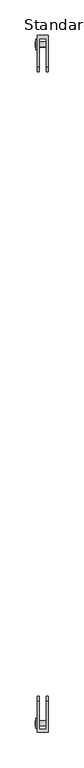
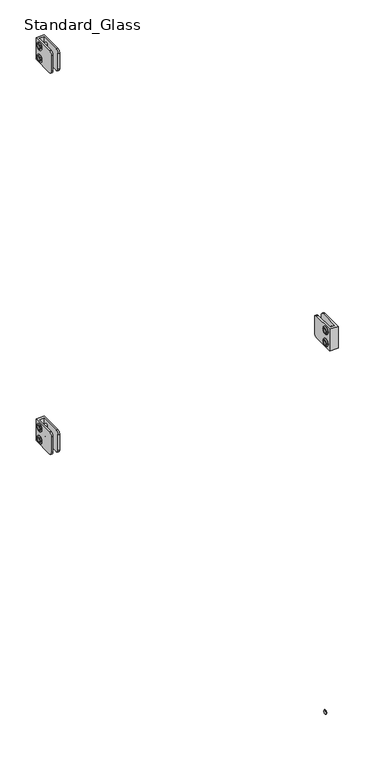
"""IFC4 building model written with IfcOpenShell, lengths in millimetres: railing geometry, Baluster-Excess-Fill-Straight-Panel-VIVA : Standard_Glass."""

from ifc_helpers import new_model, si_unit, point, frame, origin, place, context, project, spatial, polyline, circle_curve, ellipse_curve, trimmed, outline, extrude, source, transform, mapped, element, save
from ifc_brep_helpers import plane_surface, cylinder_surface, revolved_surface, advanced_brep


def standard_glass_70e89d08(model_context):
    return source(origin(), model_context, "Body", "SolidModel", [
        extrude(outline(polyline([(17.3185433, 917.178125), (15.2715791, 913.6326791), (11.1776508, 913.6326791), (9.1306867, 917.178125), (11.1776508, 920.7235709), (15.2715791, 920.7235709), (17.3185433, 917.178125)])), frame((21.7024185, 0.0, 0.0), z_axis=(1.0, 0.0, 0.0), x_axis=(0.0, 1.0, 0.0)), (0.0, 0.0, 1.0), 1.4969696),
        advanced_brep(
        [(36.7665, 16.7700609, 917.178125), (36.7665, 9.6791691, 917.178125), (24.0665, 9.6791691, 917.178125), (24.0665, 16.7700609, 917.178125), (24.0665, 5.8168259, 917.178125), (24.0665, 20.6324041, 917.178125), (23.199388, 14.8806904, 917.178125), (23.199388, 11.5685396, 917.178125), (36.7665, 11.5685396, 917.178125), (36.7665, 14.8806904, 917.178125), (23.2316551, 20.6324041, 917.178125), (23.2316551, 5.8168259, 917.178125), (21.9503831, 7.0980979, 917.178125), (21.9503831, 19.351132, 917.178125), (21.9503831, 8.9260194, 917.178125), (21.9503831, 17.5232105, 917.178125), (23.199388, 8.9260194, 917.178125), (23.199388, 17.5232105, 917.178125)],
        [
            (0, 1, circle_curve(frame((36.7665, 13.224615, 917.178125), z_axis=(-1.0, 0.0, 0.0), x_axis=(0.0, -1.0, 0.0)), 3.5454459)),
            (1, 2),
            (2, 3, circle_curve(frame((24.0665, 13.224615, 917.178125), z_axis=(1.0, 0.0, 0.0), x_axis=(0.0, -1.0, 0.0)), 3.5454459)),
            (3, 0),
            (1, 0, circle_curve(frame((36.7665, 13.224615, 917.178125), z_axis=(-1.0, 0.0, 0.0), x_axis=(0.0, -1.0, 0.0)), 3.5454459)),
            (3, 2, circle_curve(frame((24.0665, 13.224615, 917.178125), z_axis=(1.0, 0.0, 0.0), x_axis=(0.0, -1.0, 0.0)), 3.5454459)),
            (2, 4),
            (4, 5, circle_curve(frame((24.0665, 13.224615, 917.178125), z_axis=(1.0, 0.0, 0.0), x_axis=(0.0, -1.0, 0.0)), 7.4077891)),
            (5, 3),
            (5, 4, circle_curve(frame((24.0665, 13.224615, 917.178125), z_axis=(1.0, 0.0, 0.0), x_axis=(0.0, -1.0, 0.0)), 7.4077891)),
            (6, 7, circle_curve(frame((23.199388, 13.224615, 917.178125), z_axis=(-1.0, 0.0, 0.0), x_axis=(0.0, -1.0, 0.0)), 1.6560754)),
            (7, 8),
            (8, 9, circle_curve(frame((36.7665, 13.224615, 917.178125), z_axis=(1.0, 0.0, 0.0), x_axis=(0.0, -1.0, 0.0)), 1.6560754)),
            (9, 6),
            (7, 6, circle_curve(frame((23.199388, 13.224615, 917.178125), z_axis=(-1.0, 0.0, 0.0), x_axis=(0.0, -1.0, 0.0)), 1.6560754)),
            (9, 8, circle_curve(frame((36.7665, 13.224615, 917.178125), z_axis=(1.0, 0.0, 0.0), x_axis=(0.0, -1.0, 0.0)), 1.6560754)),
            (10, 11, circle_curve(frame((23.2316551, 13.224615, 917.178125), z_axis=(-1.0, 0.0, 0.0), x_axis=(0.0, -1.0, 0.0)), 7.4077891)),
            (11, 12, circle_curve(frame((23.2316551, 7.0980979, 917.178125), z_axis=(0.0, 0.0, -1.0), x_axis=(0.0, -1.0, 0.0)), 1.281272)),
            (12, 13, circle_curve(frame((21.9503831, 13.224615, 917.178125), z_axis=(1.0, 0.0, 0.0), x_axis=(0.0, -1.0, 0.0)), 6.1265171)),
            (13, 10, circle_curve(frame((23.2316551, 19.351132, 917.178125), z_axis=(0.0, 0.0, -1.0), x_axis=(0.0, 1.0, 0.0)), 1.281272)),
            (11, 10, circle_curve(frame((23.2316551, 13.224615, 917.178125), z_axis=(-1.0, 0.0, 0.0), x_axis=(0.0, -1.0, 0.0)), 7.4077891)),
            (13, 12, circle_curve(frame((21.9503831, 13.224615, 917.178125), z_axis=(1.0, 0.0, 0.0), x_axis=(0.0, -1.0, 0.0)), 6.1265171)),
            (12, 14),
            (14, 15, circle_curve(frame((21.9503831, 13.224615, 917.178125), z_axis=(1.0, 0.0, 0.0), x_axis=(0.0, -1.0, 0.0)), 4.2985955)),
            (15, 13),
            (15, 14, circle_curve(frame((21.9503831, 13.224615, 917.178125), z_axis=(1.0, 0.0, 0.0), x_axis=(0.0, -1.0, 0.0)), 4.2985955)),
            (4, 11),
            (10, 5),
            (8, 1),
            (0, 9),
            (14, 16),
            (16, 17, circle_curve(frame((23.199388, 13.224615, 917.178125), z_axis=(1.0, 0.0, 0.0), x_axis=(0.0, -1.0, 0.0)), 4.2985955)),
            (17, 15),
            (17, 16, circle_curve(frame((23.199388, 13.224615, 917.178125), z_axis=(1.0, 0.0, 0.0), x_axis=(0.0, -1.0, 0.0)), 4.2985955)),
            (16, 7),
            (6, 17),
        ],
        [
            cylinder_surface(frame((27.5632331, 13.224615, 917.178125), z_axis=(1.0, 0.0, 0.0), x_axis=(0.0, -1.0, 0.0)), 3.5454459),
            plane_surface(frame((24.0665, 13.224615, 917.178125), z_axis=(1.0, 0.0, 0.0), x_axis=(0.0, -1.0, 0.0))),
            revolved_surface(polyline([(36.7665, 11.5685396, 917.178125), (23.199388, 11.5685396, 917.178125)]), (27.5632331, 13.224615, 917.178125), (1.0, 0.0, 0.0)),
            revolved_surface(trimmed(ellipse_curve(frame((23.2316551, 7.0980979, 917.178125), z_axis=(0.0, 0.0, 1.0), x_axis=(0.0, -1.0, 0.0)), 1.281272, 1.281272), [point((21.9503831, 7.0980979, 917.178125))], [point((23.2316551, 5.8168259, 917.178125))], True, "CARTESIAN"), (27.5632331, 13.224615, 917.178125), (1.0, 0.0, 0.0)),
            plane_surface(frame((21.9503831, 13.224615, 917.178125), z_axis=(-1.0, 0.0, 0.0), x_axis=(0.0, -1.0, 0.0))),
            cylinder_surface(frame((27.5632331, 13.224615, 917.178125), z_axis=(1.0, 0.0, 0.0), x_axis=(0.0, -1.0, 0.0)), 7.4077891),
            plane_surface(frame((36.7665, 13.224615, 917.178125), z_axis=(1.0, 0.0, 0.0), x_axis=(0.0, -1.0, 0.0))),
            revolved_surface(polyline([(23.199388, 8.926019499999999, 917.178125), (21.9503831, 8.926019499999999, 917.178125)]), (27.5632331, 13.224615, 917.178125), (1.0, 0.0, 0.0)),
            plane_surface(frame((23.199388, 13.224615, 917.178125), z_axis=(-1.0, 0.0, 0.0), x_axis=(0.0, -1.0, 0.0))),
        ],
        [
            (0, [[1, 2, 3, 4]]),
            (0, [[5, -4, 6, -2]]),
            (1, [[-3, 7, 8, 9]]),
            (1, [[-6, -9, 10, -7]]),
            (2, [[11, 12, 13, 14]]),
            (2, [[15, -14, 16, -12]]),
            (3, [[17, 18, 19, 20]]),
            (3, [[21, -20, 22, -18]]),
            (4, [[-19, 23, 24, 25]]),
            (4, [[-22, -25, 26, -23]]),
            (5, [[-8, 27, -17, 28]]),
            (5, [[-10, -28, -21, -27]]),
            (6, [[-13, 29, -1, 30]]),
            (6, [[-16, -30, -5, -29]]),
            (7, [[-24, 31, 32, 33]]),
            (7, [[-26, -33, 34, -31]]),
            (8, [[-32, 35, -11, 36]]),
            (8, [[-34, -36, -15, -35]]),
        ],
    ),
        advanced_brep(
        [(36.7665, 16.7700609, 892.571875), (36.7665, 9.6791691, 892.571875), (24.0665, 9.6791691, 892.571875), (24.0665, 16.7700609, 892.571875), (24.0665, 5.8168259, 892.571875), (24.0665, 20.6324041, 892.571875), (23.199388, 14.8806904, 892.571875), (23.199388, 11.5685396, 892.571875), (36.7665, 11.5685396, 892.571875), (36.7665, 14.8806904, 892.571875), (23.2316551, 20.6324041, 892.571875), (23.2316551, 5.8168259, 892.571875), (21.9503831, 7.0980979, 892.571875), (21.9503831, 19.351132, 892.571875), (21.9503831, 8.9260194, 892.571875), (21.9503831, 17.5232105, 892.571875), (23.199388, 8.9260194, 892.571875), (23.199388, 17.5232105, 892.571875)],
        [
            (0, 1, circle_curve(frame((36.7665, 13.224615, 892.571875), z_axis=(-1.0, 0.0, 0.0), x_axis=(0.0, -1.0, 0.0)), 3.5454459)),
            (1, 2),
            (2, 3, circle_curve(frame((24.0665, 13.224615, 892.571875), z_axis=(1.0, 0.0, 0.0), x_axis=(0.0, -1.0, 0.0)), 3.5454459)),
            (3, 0),
            (1, 0, circle_curve(frame((36.7665, 13.224615, 892.571875), z_axis=(-1.0, 0.0, 0.0), x_axis=(0.0, -1.0, 0.0)), 3.5454459)),
            (3, 2, circle_curve(frame((24.0665, 13.224615, 892.571875), z_axis=(1.0, 0.0, 0.0), x_axis=(0.0, -1.0, 0.0)), 3.5454459)),
            (2, 4),
            (4, 5, circle_curve(frame((24.0665, 13.224615, 892.571875), z_axis=(1.0, 0.0, 0.0), x_axis=(0.0, -1.0, 0.0)), 7.4077891)),
            (5, 3),
            (5, 4, circle_curve(frame((24.0665, 13.224615, 892.571875), z_axis=(1.0, 0.0, 0.0), x_axis=(0.0, -1.0, 0.0)), 7.4077891)),
            (6, 7, circle_curve(frame((23.199388, 13.224615, 892.571875), z_axis=(-1.0, 0.0, 0.0), x_axis=(0.0, -1.0, 0.0)), 1.6560754)),
            (7, 8),
            (8, 9, circle_curve(frame((36.7665, 13.224615, 892.571875), z_axis=(1.0, 0.0, 0.0), x_axis=(0.0, -1.0, 0.0)), 1.6560754)),
            (9, 6),
            (7, 6, circle_curve(frame((23.199388, 13.224615, 892.571875), z_axis=(-1.0, 0.0, 0.0), x_axis=(0.0, -1.0, 0.0)), 1.6560754)),
            (9, 8, circle_curve(frame((36.7665, 13.224615, 892.571875), z_axis=(1.0, 0.0, 0.0), x_axis=(0.0, -1.0, 0.0)), 1.6560754)),
            (10, 11, circle_curve(frame((23.2316551, 13.224615, 892.571875), z_axis=(-1.0, 0.0, 0.0), x_axis=(0.0, -1.0, 0.0)), 7.4077891)),
            (11, 12, circle_curve(frame((23.2316551, 7.0980979, 892.571875), z_axis=(0.0, 0.0, -1.0), x_axis=(0.0, -1.0, 0.0)), 1.281272)),
            (12, 13, circle_curve(frame((21.9503831, 13.224615, 892.571875), z_axis=(1.0, 0.0, 0.0), x_axis=(0.0, -1.0, 0.0)), 6.1265171)),
            (13, 10, circle_curve(frame((23.2316551, 19.351132, 892.571875), z_axis=(0.0, 0.0, -1.0), x_axis=(0.0, 1.0, 0.0)), 1.281272)),
            (11, 10, circle_curve(frame((23.2316551, 13.224615, 892.571875), z_axis=(-1.0, 0.0, 0.0), x_axis=(0.0, -1.0, 0.0)), 7.4077891)),
            (13, 12, circle_curve(frame((21.9503831, 13.224615, 892.571875), z_axis=(1.0, 0.0, 0.0), x_axis=(0.0, -1.0, 0.0)), 6.1265171)),
            (12, 14),
            (14, 15, circle_curve(frame((21.9503831, 13.224615, 892.571875), z_axis=(1.0, 0.0, 0.0), x_axis=(0.0, -1.0, 0.0)), 4.2985955)),
            (15, 13),
            (15, 14, circle_curve(frame((21.9503831, 13.224615, 892.571875), z_axis=(1.0, 0.0, 0.0), x_axis=(0.0, -1.0, 0.0)), 4.2985955)),
            (8, 1),
            (0, 9),
            (4, 11),
            (10, 5),
            (14, 16),
            (16, 17, circle_curve(frame((23.199388, 13.224615, 892.571875), z_axis=(1.0, 0.0, 0.0), x_axis=(0.0, -1.0, 0.0)), 4.2985955)),
            (17, 15),
            (17, 16, circle_curve(frame((23.199388, 13.224615, 892.571875), z_axis=(1.0, 0.0, 0.0), x_axis=(0.0, -1.0, 0.0)), 4.2985955)),
            (16, 7),
            (6, 17),
        ],
        [
            cylinder_surface(frame((27.5632331, 13.224615, 892.571875), z_axis=(1.0, 0.0, 0.0), x_axis=(0.0, -1.0, 0.0)), 3.5454459),
            plane_surface(frame((24.0665, 13.224615, 892.571875), z_axis=(1.0, 0.0, 0.0), x_axis=(0.0, -1.0, 0.0))),
            revolved_surface(polyline([(36.7665, 11.5685396, 892.571875), (23.199388, 11.5685396, 892.571875)]), (27.5632331, 13.224615, 892.571875), (1.0, 0.0, 0.0)),
            revolved_surface(trimmed(ellipse_curve(frame((23.2316551, 7.0980979, 892.571875), z_axis=(0.0, 0.0, 1.0), x_axis=(0.0, -1.0, 0.0)), 1.281272, 1.281272), [point((21.9503831, 7.0980979, 892.571875))], [point((23.2316551, 5.8168259, 892.571875))], True, "CARTESIAN"), (27.5632331, 13.224615, 892.571875), (1.0, 0.0, 0.0)),
            plane_surface(frame((21.9503831, 13.224615, 892.571875), z_axis=(-1.0, 0.0, 0.0), x_axis=(0.0, -1.0, 0.0))),
            plane_surface(frame((36.7665, 13.224615, 892.571875), z_axis=(1.0, 0.0, 0.0), x_axis=(0.0, -1.0, 0.0))),
            cylinder_surface(frame((27.5632331, 13.224615, 892.571875), z_axis=(1.0, 0.0, 0.0), x_axis=(0.0, -1.0, 0.0)), 7.4077891),
            revolved_surface(polyline([(23.199388, 8.926019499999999, 892.571875), (21.9503831, 8.926019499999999, 892.571875)]), (27.5632331, 13.224615, 892.571875), (1.0, 0.0, 0.0)),
            plane_surface(frame((23.199388, 13.224615, 892.571875), z_axis=(-1.0, 0.0, 0.0), x_axis=(0.0, -1.0, 0.0))),
        ],
        [
            (0, [[1, 2, 3, 4]]),
            (0, [[5, -4, 6, -2]]),
            (1, [[-3, 7, 8, 9]]),
            (1, [[-6, -9, 10, -7]]),
            (2, [[11, 12, 13, 14]]),
            (2, [[15, -14, 16, -12]]),
            (3, [[17, 18, 19, 20]]),
            (3, [[21, -20, 22, -18]]),
            (4, [[-19, 23, 24, 25]]),
            (4, [[-22, -25, 26, -23]]),
            (5, [[-13, 27, -1, 28]]),
            (5, [[-16, -28, -5, -27]]),
            (6, [[-8, 29, -17, 30]]),
            (6, [[-10, -30, -21, -29]]),
            (7, [[-24, 31, 32, 33]]),
            (7, [[-26, -33, 34, -31]]),
            (8, [[-32, 35, -11, 36]]),
            (8, [[-34, -36, -15, -35]]),
        ],
    ),
        extrude(outline(polyline([(17.3185433, 892.571875), (15.2715791, 889.0264291), (11.1776508, 889.0264291), (9.1306867, 892.571875), (11.1776508, 896.1173209), (15.2715791, 896.1173209), (17.3185433, 892.571875)])), frame((21.7024185, 0.0, 0.0), z_axis=(1.0, 0.0, 0.0), x_axis=(0.0, 1.0, 0.0)), (0.0, 0.0, 1.0), 1.4969696),
        advanced_brep(
        [(24.0665, 25.8579597, 927.1), (24.0665, 25.8579597, 882.65), (24.0665, -18.5920403, 882.65), (24.0665, -24.9420403, 889.0), (24.0665, -24.9420403, 920.75), (24.0665, -18.5920403, 927.1), (39.9415, 25.8579597, 927.1), (39.9415, -18.5920403, 927.1), (39.9415, -24.9420403, 920.75), (39.9415, -24.9420403, 889.0), (39.9415, -18.5920403, 882.65), (39.9415, 25.8579597, 882.65), (36.7665, -18.5920403, 882.65), (36.7665, 21.1398793, 882.65), (27.2415, 21.1398793, 882.65), (27.2415, -18.5920403, 882.65), (36.7665, 21.1398793, 927.1), (27.2415, 21.1398793, 927.1), (27.2415, -18.5920403, 927.1), (27.2415, -24.9420403, 920.75), (27.2415, -24.9420403, 889.0), (36.7665, -24.9420403, 889.0), (36.7665, -24.9420403, 920.75), (36.7665, -18.5920403, 927.1)],
        [
            (0, 1),
            (1, 2),
            (2, 3, circle_curve(frame((24.0665, -18.5920403, 889.0), z_axis=(-1.0, 0.0, 0.0), x_axis=(0.0, -1.0, 0.0)), 6.35)),
            (3, 4),
            (4, 5, circle_curve(frame((24.0665, -18.5920403, 920.75), z_axis=(-1.0, 0.0, 0.0), x_axis=(0.0, -1.0, 0.0)), 6.35)),
            (5, 0),
            (6, 7),
            (7, 8, circle_curve(frame((39.9415, -18.5920403, 920.75), z_axis=(1.0, 0.0, 0.0), x_axis=(0.0, -1.0, 0.0)), 6.35)),
            (8, 9),
            (9, 10, circle_curve(frame((39.9415, -18.5920403, 889.0), z_axis=(1.0, 0.0, 0.0), x_axis=(0.0, -1.0, 0.0)), 6.35)),
            (10, 11),
            (11, 6),
            (0, 6),
            (11, 1),
            (10, 12),
            (12, 13),
            (13, 14),
            (14, 15),
            (15, 2),
            (13, 16),
            (16, 17),
            (17, 14),
            (17, 18),
            (18, 19, circle_curve(frame((27.2415, -18.5920403, 920.75), z_axis=(1.0, 0.0, 0.0), x_axis=(0.0, -1.0, 0.0)), 6.35)),
            (19, 20),
            (20, 15, circle_curve(frame((27.2415, -18.5920403, 889.0), z_axis=(1.0, 0.0, 0.0), x_axis=(0.0, -1.0, 0.0)), 6.35)),
            (12, 21, circle_curve(frame((36.7665, -18.5920403, 889.0), z_axis=(-1.0, 0.0, 0.0), x_axis=(0.0, -1.0, 0.0)), 6.35)),
            (21, 22),
            (22, 23, circle_curve(frame((36.7665, -18.5920403, 920.75), z_axis=(-1.0, 0.0, 0.0), x_axis=(0.0, -1.0, 0.0)), 6.35)),
            (23, 16),
            (20, 3),
            (9, 21),
            (19, 4),
            (8, 22),
            (18, 5),
            (7, 23),
        ],
        [
            plane_surface(frame((24.0665, 25.8579597, 882.65), z_axis=(-1.0, 0.0, 0.0), x_axis=(0.0, 0.0, -1.0))),
            plane_surface(frame((39.9415, 25.8579597, 882.65), z_axis=(1.0, 0.0, 0.0), x_axis=(0.0, 0.0, 1.0))),
            plane_surface(frame((24.0665, 25.8579597, 927.1), z_axis=(0.0, 1.0, 0.0), x_axis=(1.0, 0.0, 0.0))),
            plane_surface(frame((24.0665, 25.8579597, 882.65), z_axis=(0.0, 0.0, -1.0), x_axis=(1.0, 0.0, 0.0))),
            plane_surface(frame((36.7665, 21.1398793, 939.8), z_axis=(0.0, -1.0, 0.0), x_axis=(0.0, 0.0, -1.0))),
            plane_surface(frame((27.2415, 21.1398793, 939.8), z_axis=(1.0, 0.0, 0.0), x_axis=(0.0, 0.0, -1.0))),
            plane_surface(frame((36.7665, -37.6420403, 939.8), z_axis=(-1.0, 0.0, 0.0), x_axis=(0.0, 0.0, -1.0))),
            cylinder_surface(frame((39.9415, -18.5920403, 889.0), z_axis=(-1.0, 0.0, 0.0), x_axis=(0.0, -1.0, 0.0)), 6.35),
            plane_surface(frame((24.0665, -24.9420403, 889.0), z_axis=(0.0, -1.0, 0.0), x_axis=(1.0, 0.0, 0.0))),
            cylinder_surface(frame((39.9415, -18.5920403, 920.75), z_axis=(-1.0, 0.0, 0.0), x_axis=(0.0, -1.0, 0.0)), 6.35),
            plane_surface(frame((24.0665, -18.5920403, 927.1), z_axis=(0.0, 0.0, 1.0), x_axis=(1.0, 0.0, 0.0))),
        ],
        [
            (0, [[1, 2, 3, 4, 5, 6]]),
            (1, [[7, 8, 9, 10, 11, 12]]),
            (2, [[-1, 13, -12, 14]]),
            (3, [[-2, -14, -11, 15, 16, 17, 18, 19]]),
            (4, [[20, 21, 22, -17]]),
            (5, [[-22, 23, 24, 25, 26, -18]]),
            (6, [[-20, -16, 27, 28, 29, 30]]),
            (7, [[-3, -19, -26, 31]]),
            (7, [[-10, 32, -27, -15]]),
            (8, [[-4, -31, -25, 33]]),
            (8, [[-9, 34, -28, -32]]),
            (9, [[-5, -33, -24, 35]]),
            (9, [[-8, 36, -29, -34]]),
            (10, [[-6, -35, -23, -21, -30, -36, -7, -13]]),
        ],
    ),
        extrude(outline(polyline([(17.3185433, 138.7358896), (15.2715791, 135.1904437), (11.1776508, 135.1904437), (9.1306867, 138.7358896), (11.1776508, 142.2813355), (15.2715791, 142.2813355), (17.3185433, 138.7358896)])), frame((21.7024185, 0.0, 0.0), z_axis=(1.0, 0.0, 0.0), x_axis=(0.0, 1.0, 0.0)), (0.0, 0.0, 1.0), 1.4969696),
        advanced_brep(
        [(36.7665, 16.7700609, 138.7358896), (36.7665, 9.6791691, 138.7358896), (24.0665, 9.6791691, 138.7358896), (24.0665, 16.7700609, 138.7358896), (24.0665, 5.8168259, 138.7358896), (24.0665, 20.6324041, 138.7358896), (23.199388, 14.8806904, 138.7358896), (23.199388, 11.5685396, 138.7358896), (36.7665, 11.5685396, 138.7358896), (36.7665, 14.8806904, 138.7358896), (23.2316551, 20.6324041, 138.7358896), (23.2316551, 5.8168259, 138.7358896), (21.9503831, 7.0980979, 138.7358896), (21.9503831, 19.351132, 138.7358896), (21.9503831, 8.9260194, 138.7358896), (21.9503831, 17.5232105, 138.7358896), (23.199388, 8.9260194, 138.7358896), (23.199388, 17.5232105, 138.7358896)],
        [
            (0, 1, circle_curve(frame((36.7665, 13.224615, 138.7358896), z_axis=(-1.0, 0.0, 0.0), x_axis=(0.0, -1.0, 0.0)), 3.5454459)),
            (1, 2),
            (2, 3, circle_curve(frame((24.0665, 13.224615, 138.7358896), z_axis=(1.0, 0.0, 0.0), x_axis=(0.0, -1.0, 0.0)), 3.5454459)),
            (3, 0),
            (1, 0, circle_curve(frame((36.7665, 13.224615, 138.7358896), z_axis=(-1.0, 0.0, 0.0), x_axis=(0.0, -1.0, 0.0)), 3.5454459)),
            (3, 2, circle_curve(frame((24.0665, 13.224615, 138.7358896), z_axis=(1.0, 0.0, 0.0), x_axis=(0.0, -1.0, 0.0)), 3.5454459)),
            (2, 4),
            (4, 5, circle_curve(frame((24.0665, 13.224615, 138.7358896), z_axis=(1.0, 0.0, 0.0), x_axis=(0.0, -1.0, 0.0)), 7.4077891)),
            (5, 3),
            (5, 4, circle_curve(frame((24.0665, 13.224615, 138.7358896), z_axis=(1.0, 0.0, 0.0), x_axis=(0.0, -1.0, 0.0)), 7.4077891)),
            (6, 7, circle_curve(frame((23.199388, 13.224615, 138.7358896), z_axis=(-1.0, 0.0, 0.0), x_axis=(0.0, -1.0, 0.0)), 1.6560754)),
            (7, 8),
            (8, 9, circle_curve(frame((36.7665, 13.224615, 138.7358896), z_axis=(1.0, 0.0, 0.0), x_axis=(0.0, -1.0, 0.0)), 1.6560754)),
            (9, 6),
            (7, 6, circle_curve(frame((23.199388, 13.224615, 138.7358896), z_axis=(-1.0, 0.0, 0.0), x_axis=(0.0, -1.0, 0.0)), 1.6560754)),
            (9, 8, circle_curve(frame((36.7665, 13.224615, 138.7358896), z_axis=(1.0, 0.0, 0.0), x_axis=(0.0, -1.0, 0.0)), 1.6560754)),
            (10, 11, circle_curve(frame((23.2316551, 13.224615, 138.7358896), z_axis=(-1.0, 0.0, 0.0), x_axis=(0.0, -1.0, 0.0)), 7.4077891)),
            (11, 12, circle_curve(frame((23.2316551, 7.0980979, 138.7358896), z_axis=(0.0, 0.0, -1.0), x_axis=(0.0, -1.0, 0.0)), 1.281272)),
            (12, 13, circle_curve(frame((21.9503831, 13.224615, 138.7358896), z_axis=(1.0, 0.0, 0.0), x_axis=(0.0, -1.0, 0.0)), 6.1265171)),
            (13, 10, circle_curve(frame((23.2316551, 19.351132, 138.7358896), z_axis=(0.0, 0.0, -1.0), x_axis=(0.0, 1.0, 0.0)), 1.281272)),
            (11, 10, circle_curve(frame((23.2316551, 13.224615, 138.7358896), z_axis=(-1.0, 0.0, 0.0), x_axis=(0.0, -1.0, 0.0)), 7.4077891)),
            (13, 12, circle_curve(frame((21.9503831, 13.224615, 138.7358896), z_axis=(1.0, 0.0, 0.0), x_axis=(0.0, -1.0, 0.0)), 6.1265171)),
            (12, 14),
            (14, 15, circle_curve(frame((21.9503831, 13.224615, 138.7358896), z_axis=(1.0, 0.0, 0.0), x_axis=(0.0, -1.0, 0.0)), 4.2985955)),
            (15, 13),
            (15, 14, circle_curve(frame((21.9503831, 13.224615, 138.7358896), z_axis=(1.0, 0.0, 0.0), x_axis=(0.0, -1.0, 0.0)), 4.2985955)),
            (4, 11),
            (10, 5),
            (8, 1),
            (0, 9),
            (14, 16),
            (16, 17, circle_curve(frame((23.199388, 13.224615, 138.7358896), z_axis=(1.0, 0.0, 0.0), x_axis=(0.0, -1.0, 0.0)), 4.2985955)),
            (17, 15),
            (17, 16, circle_curve(frame((23.199388, 13.224615, 138.7358896), z_axis=(1.0, 0.0, 0.0), x_axis=(0.0, -1.0, 0.0)), 4.2985955)),
            (16, 7),
            (6, 17),
        ],
        [
            cylinder_surface(frame((27.5632331, 13.224615, 138.7358896), z_axis=(1.0, 0.0, 0.0), x_axis=(0.0, -1.0, 0.0)), 3.5454459),
            plane_surface(frame((24.0665, 13.224615, 138.7358896), z_axis=(1.0, 0.0, 0.0), x_axis=(0.0, -1.0, 0.0))),
            revolved_surface(polyline([(36.7665, 11.5685396, 138.7358896), (23.199388, 11.5685396, 138.7358896)]), (27.5632331, 13.224615, 138.7358896), (1.0, 0.0, 0.0)),
            revolved_surface(trimmed(ellipse_curve(frame((23.2316551, 7.0980979, 138.7358896), z_axis=(0.0, 0.0, 1.0), x_axis=(0.0, -1.0, 0.0)), 1.281272, 1.281272), [point((21.9503831, 7.0980979, 138.7358896))], [point((23.2316551, 5.8168259, 138.7358896))], True, "CARTESIAN"), (27.5632331, 13.224615, 138.7358896), (1.0, 0.0, 0.0)),
            plane_surface(frame((21.9503831, 13.224615, 138.7358896), z_axis=(-1.0, 0.0, 0.0), x_axis=(0.0, -1.0, 0.0))),
            cylinder_surface(frame((27.5632331, 13.224615, 138.7358896), z_axis=(1.0, 0.0, 0.0), x_axis=(0.0, -1.0, 0.0)), 7.4077891),
            plane_surface(frame((36.7665, 13.224615, 138.7358896), z_axis=(1.0, 0.0, 0.0), x_axis=(0.0, -1.0, 0.0))),
            revolved_surface(polyline([(23.199388, 8.926019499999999, 138.7358896), (21.9503831, 8.926019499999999, 138.7358896)]), (27.5632331, 13.224615, 138.7358896), (1.0, 0.0, 0.0)),
            plane_surface(frame((23.199388, 13.224615, 138.7358896), z_axis=(-1.0, 0.0, 0.0), x_axis=(0.0, -1.0, 0.0))),
        ],
        [
            (0, [[1, 2, 3, 4]]),
            (0, [[5, -4, 6, -2]]),
            (1, [[-3, 7, 8, 9]]),
            (1, [[-6, -9, 10, -7]]),
            (2, [[11, 12, 13, 14]]),
            (2, [[15, -14, 16, -12]]),
            (3, [[17, 18, 19, 20]]),
            (3, [[21, -20, 22, -18]]),
            (4, [[-19, 23, 24, 25]]),
            (4, [[-22, -25, 26, -23]]),
            (5, [[-8, 27, -17, 28]]),
            (5, [[-10, -28, -21, -27]]),
            (6, [[-13, 29, -1, 30]]),
            (6, [[-16, -30, -5, -29]]),
            (7, [[-24, 31, 32, 33]]),
            (7, [[-26, -33, 34, -31]]),
            (8, [[-32, 35, -11, 36]]),
            (8, [[-34, -36, -15, -35]]),
        ],
    ),
        advanced_brep(
        [(36.7665, 16.7700609, 114.1296396), (36.7665, 9.6791691, 114.1296396), (24.0665, 9.6791691, 114.1296396), (24.0665, 16.7700609, 114.1296396), (24.0665, 5.8168259, 114.1296396), (24.0665, 20.6324041, 114.1296396), (23.199388, 14.8806904, 114.1296396), (23.199388, 11.5685396, 114.1296396), (36.7665, 11.5685396, 114.1296396), (36.7665, 14.8806904, 114.1296396), (23.2316551, 20.6324041, 114.1296396), (23.2316551, 5.8168259, 114.1296396), (21.9503831, 7.0980979, 114.1296396), (21.9503831, 19.351132, 114.1296396), (21.9503831, 8.9260194, 114.1296396), (21.9503831, 17.5232105, 114.1296396), (23.199388, 8.9260194, 114.1296396), (23.199388, 17.5232105, 114.1296396)],
        [
            (0, 1, circle_curve(frame((36.7665, 13.224615, 114.1296396), z_axis=(-1.0, 0.0, 0.0), x_axis=(0.0, -1.0, 0.0)), 3.5454459)),
            (1, 2),
            (2, 3, circle_curve(frame((24.0665, 13.224615, 114.1296396), z_axis=(1.0, 0.0, 0.0), x_axis=(0.0, -1.0, 0.0)), 3.5454459)),
            (3, 0),
            (1, 0, circle_curve(frame((36.7665, 13.224615, 114.1296396), z_axis=(-1.0, 0.0, 0.0), x_axis=(0.0, -1.0, 0.0)), 3.5454459)),
            (3, 2, circle_curve(frame((24.0665, 13.224615, 114.1296396), z_axis=(1.0, 0.0, 0.0), x_axis=(0.0, -1.0, 0.0)), 3.5454459)),
            (2, 4),
            (4, 5, circle_curve(frame((24.0665, 13.224615, 114.1296396), z_axis=(1.0, 0.0, 0.0), x_axis=(0.0, -1.0, 0.0)), 7.4077891)),
            (5, 3),
            (5, 4, circle_curve(frame((24.0665, 13.224615, 114.1296396), z_axis=(1.0, 0.0, 0.0), x_axis=(0.0, -1.0, 0.0)), 7.4077891)),
            (6, 7, circle_curve(frame((23.199388, 13.224615, 114.1296396), z_axis=(-1.0, 0.0, 0.0), x_axis=(0.0, -1.0, 0.0)), 1.6560754)),
            (7, 8),
            (8, 9, circle_curve(frame((36.7665, 13.224615, 114.1296396), z_axis=(1.0, 0.0, 0.0), x_axis=(0.0, -1.0, 0.0)), 1.6560754)),
            (9, 6),
            (7, 6, circle_curve(frame((23.199388, 13.224615, 114.1296396), z_axis=(-1.0, 0.0, 0.0), x_axis=(0.0, -1.0, 0.0)), 1.6560754)),
            (9, 8, circle_curve(frame((36.7665, 13.224615, 114.1296396), z_axis=(1.0, 0.0, 0.0), x_axis=(0.0, -1.0, 0.0)), 1.6560754)),
            (10, 11, circle_curve(frame((23.2316551, 13.224615, 114.1296396), z_axis=(-1.0, 0.0, 0.0), x_axis=(0.0, -1.0, 0.0)), 7.4077891)),
            (11, 12, circle_curve(frame((23.2316551, 7.0980979, 114.1296396), z_axis=(0.0, 0.0, -1.0), x_axis=(0.0, -1.0, 0.0)), 1.281272)),
            (12, 13, circle_curve(frame((21.9503831, 13.224615, 114.1296396), z_axis=(1.0, 0.0, 0.0), x_axis=(0.0, -1.0, 0.0)), 6.1265171)),
            (13, 10, circle_curve(frame((23.2316551, 19.351132, 114.1296396), z_axis=(0.0, 0.0, -1.0), x_axis=(0.0, 1.0, 0.0)), 1.281272)),
            (11, 10, circle_curve(frame((23.2316551, 13.224615, 114.1296396), z_axis=(-1.0, 0.0, 0.0), x_axis=(0.0, -1.0, 0.0)), 7.4077891)),
            (13, 12, circle_curve(frame((21.9503831, 13.224615, 114.1296396), z_axis=(1.0, 0.0, 0.0), x_axis=(0.0, -1.0, 0.0)), 6.1265171)),
            (12, 14),
            (14, 15, circle_curve(frame((21.9503831, 13.224615, 114.1296396), z_axis=(1.0, 0.0, 0.0), x_axis=(0.0, -1.0, 0.0)), 4.2985955)),
            (15, 13),
            (15, 14, circle_curve(frame((21.9503831, 13.224615, 114.1296396), z_axis=(1.0, 0.0, 0.0), x_axis=(0.0, -1.0, 0.0)), 4.2985955)),
            (8, 1),
            (0, 9),
            (4, 11),
            (10, 5),
            (14, 16),
            (16, 17, circle_curve(frame((23.199388, 13.224615, 114.1296396), z_axis=(1.0, 0.0, 0.0), x_axis=(0.0, -1.0, 0.0)), 4.2985955)),
            (17, 15),
            (17, 16, circle_curve(frame((23.199388, 13.224615, 114.1296396), z_axis=(1.0, 0.0, 0.0), x_axis=(0.0, -1.0, 0.0)), 4.2985955)),
            (16, 7),
            (6, 17),
        ],
        [
            cylinder_surface(frame((27.5632331, 13.224615, 114.1296396), z_axis=(1.0, 0.0, 0.0), x_axis=(0.0, -1.0, 0.0)), 3.5454459),
            plane_surface(frame((24.0665, 13.224615, 114.1296396), z_axis=(1.0, 0.0, 0.0), x_axis=(0.0, -1.0, 0.0))),
            revolved_surface(polyline([(36.7665, 11.5685396, 114.1296396), (23.199388, 11.5685396, 114.1296396)]), (27.5632331, 13.224615, 114.1296396), (1.0, 0.0, 0.0)),
            revolved_surface(trimmed(ellipse_curve(frame((23.2316551, 7.0980979, 114.1296396), z_axis=(0.0, 0.0, 1.0), x_axis=(0.0, -1.0, 0.0)), 1.281272, 1.281272), [point((21.9503831, 7.0980979, 114.1296396))], [point((23.2316551, 5.8168259, 114.1296396))], True, "CARTESIAN"), (27.5632331, 13.224615, 114.1296396), (1.0, 0.0, 0.0)),
            plane_surface(frame((21.9503831, 13.224615, 114.1296396), z_axis=(-1.0, 0.0, 0.0), x_axis=(0.0, -1.0, 0.0))),
            plane_surface(frame((36.7665, 13.224615, 114.1296396), z_axis=(1.0, 0.0, 0.0), x_axis=(0.0, -1.0, 0.0))),
            cylinder_surface(frame((27.5632331, 13.224615, 114.1296396), z_axis=(1.0, 0.0, 0.0), x_axis=(0.0, -1.0, 0.0)), 7.4077891),
            revolved_surface(polyline([(23.199388, 8.926019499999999, 114.1296396), (21.9503831, 8.926019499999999, 114.1296396)]), (27.5632331, 13.224615, 114.1296396), (1.0, 0.0, 0.0)),
            plane_surface(frame((23.199388, 13.224615, 114.1296396), z_axis=(-1.0, 0.0, 0.0), x_axis=(0.0, -1.0, 0.0))),
        ],
        [
            (0, [[1, 2, 3, 4]]),
            (0, [[5, -4, 6, -2]]),
            (1, [[-3, 7, 8, 9]]),
            (1, [[-6, -9, 10, -7]]),
            (2, [[11, 12, 13, 14]]),
            (2, [[15, -14, 16, -12]]),
            (3, [[17, 18, 19, 20]]),
            (3, [[21, -20, 22, -18]]),
            (4, [[-19, 23, 24, 25]]),
            (4, [[-22, -25, 26, -23]]),
            (5, [[-13, 27, -1, 28]]),
            (5, [[-16, -28, -5, -27]]),
            (6, [[-8, 29, -17, 30]]),
            (6, [[-10, -30, -21, -29]]),
            (7, [[-24, 31, 32, 33]]),
            (7, [[-26, -33, 34, -31]]),
            (8, [[-32, 35, -11, 36]]),
            (8, [[-34, -36, -15, -35]]),
        ],
    ),
        extrude(outline(polyline([(17.3185433, 114.1296396), (15.2715791, 110.5841937), (11.1776508, 110.5841937), (9.1306867, 114.1296396), (11.1776508, 117.6750855), (15.2715791, 117.6750855), (17.3185433, 114.1296396)])), frame((21.7024185, 0.0, 0.0), z_axis=(1.0, 0.0, 0.0), x_axis=(0.0, 1.0, 0.0)), (0.0, 0.0, 1.0), 1.4969696),
        advanced_brep(
        [(24.0665, 25.8579597, 148.6577646), (24.0665, 25.8579597, 104.2077646), (24.0665, -18.5920403, 104.2077646), (24.0665, -24.9420403, 110.5577646), (24.0665, -24.9420403, 142.3077646), (24.0665, -18.5920403, 148.6577646), (39.9415, 25.8579597, 148.6577646), (39.9415, -18.5920403, 148.6577646), (39.9415, -24.9420403, 142.3077646), (39.9415, -24.9420403, 110.5577646), (39.9415, -18.5920403, 104.2077646), (39.9415, 25.8579597, 104.2077646), (36.7665, -18.5920403, 104.2077646), (36.7665, 21.1398793, 104.2077646), (27.2415, 21.1398793, 104.2077646), (27.2415, -18.5920403, 104.2077646), (36.7665, 21.1398793, 148.6577646), (27.2415, 21.1398793, 148.6577646), (27.2415, -18.5920403, 148.6577646), (27.2415, -24.9420403, 142.3077646), (27.2415, -24.9420403, 110.5577646), (36.7665, -24.9420403, 110.5577646), (36.7665, -24.9420403, 142.3077646), (36.7665, -18.5920403, 148.6577646)],
        [
            (0, 1),
            (1, 2),
            (2, 3, circle_curve(frame((24.0665, -18.5920403, 110.5577646), z_axis=(-1.0, 0.0, 0.0), x_axis=(0.0, -1.0, 0.0)), 6.35)),
            (3, 4),
            (4, 5, circle_curve(frame((24.0665, -18.5920403, 142.3077646), z_axis=(-1.0, 0.0, 0.0), x_axis=(0.0, -1.0, 0.0)), 6.35)),
            (5, 0),
            (6, 7),
            (7, 8, circle_curve(frame((39.9415, -18.5920403, 142.3077646), z_axis=(1.0, 0.0, 0.0), x_axis=(0.0, -1.0, 0.0)), 6.35)),
            (8, 9),
            (9, 10, circle_curve(frame((39.9415, -18.5920403, 110.5577646), z_axis=(1.0, 0.0, 0.0), x_axis=(0.0, -1.0, 0.0)), 6.35)),
            (10, 11),
            (11, 6),
            (0, 6),
            (11, 1),
            (10, 12),
            (12, 13),
            (13, 14),
            (14, 15),
            (15, 2),
            (13, 16),
            (16, 17),
            (17, 14),
            (17, 18),
            (18, 19, circle_curve(frame((27.2415, -18.5920403, 142.3077646), z_axis=(1.0, 0.0, 0.0), x_axis=(0.0, -1.0, 0.0)), 6.35)),
            (19, 20),
            (20, 15, circle_curve(frame((27.2415, -18.5920403, 110.5577646), z_axis=(1.0, 0.0, 0.0), x_axis=(0.0, -1.0, 0.0)), 6.35)),
            (12, 21, circle_curve(frame((36.7665, -18.5920403, 110.5577646), z_axis=(-1.0, 0.0, 0.0), x_axis=(0.0, -1.0, 0.0)), 6.35)),
            (21, 22),
            (22, 23, circle_curve(frame((36.7665, -18.5920403, 142.3077646), z_axis=(-1.0, 0.0, 0.0), x_axis=(0.0, -1.0, 0.0)), 6.35)),
            (23, 16),
            (20, 3),
            (9, 21),
            (19, 4),
            (8, 22),
            (18, 5),
            (7, 23),
        ],
        [
            plane_surface(frame((24.0665, 25.8579597, 104.2077646), z_axis=(-1.0, 0.0, 0.0), x_axis=(0.0, 0.0, -1.0))),
            plane_surface(frame((39.9415, 25.8579597, 104.2077646), z_axis=(1.0, 0.0, 0.0), x_axis=(0.0, 0.0, 1.0))),
            plane_surface(frame((24.0665, 25.8579597, 148.6577646), z_axis=(0.0, 1.0, 0.0), x_axis=(1.0, 0.0, 0.0))),
            plane_surface(frame((24.0665, 25.8579597, 104.2077646), z_axis=(0.0, 0.0, -1.0), x_axis=(1.0, 0.0, 0.0))),
            plane_surface(frame((36.7665, 21.1398793, 161.3577646), z_axis=(0.0, -1.0, 0.0), x_axis=(0.0, 0.0, -1.0))),
            plane_surface(frame((27.2415, 21.1398793, 161.3577646), z_axis=(1.0, 0.0, 0.0), x_axis=(0.0, 0.0, -1.0))),
            plane_surface(frame((36.7665, -37.6420403, 161.3577646), z_axis=(-1.0, 0.0, 0.0), x_axis=(0.0, 0.0, -1.0))),
            cylinder_surface(frame((39.9415, -18.5920403, 110.5577646), z_axis=(-1.0, 0.0, 0.0), x_axis=(0.0, -1.0, 0.0)), 6.35),
            plane_surface(frame((24.0665, -24.9420403, 110.5577646), z_axis=(0.0, -1.0, 0.0), x_axis=(1.0, 0.0, 0.0))),
            cylinder_surface(frame((39.9415, -18.5920403, 142.3077646), z_axis=(-1.0, 0.0, 0.0), x_axis=(0.0, -1.0, 0.0)), 6.35),
            plane_surface(frame((24.0665, -18.5920403, 148.6577646), z_axis=(0.0, 0.0, 1.0), x_axis=(1.0, 0.0, 0.0))),
        ],
        [
            (0, [[1, 2, 3, 4, 5, 6]]),
            (1, [[7, 8, 9, 10, 11, 12]]),
            (2, [[-1, 13, -12, 14]]),
            (3, [[-2, -14, -11, 15, 16, 17, 18, 19]]),
            (4, [[20, 21, 22, -17]]),
            (5, [[-22, 23, 24, 25, 26, -18]]),
            (6, [[-20, -16, 27, 28, 29, 30]]),
            (7, [[-3, -19, -26, 31]]),
            (7, [[-10, 32, -27, -15]]),
            (8, [[-4, -31, -25, 33]]),
            (8, [[-9, 34, -28, -32]]),
            (9, [[-5, -33, -24, 35]]),
            (9, [[-8, 36, -29, -34]]),
            (10, [[-6, -35, -23, -21, -30, -36, -7, -13]]),
        ],
    ),
        extrude(outline(polyline([(-947.2335471, 917.178125), (-945.186583, 920.7235709), (-941.0926547, 920.7235709), (-939.0456905, 917.178125), (-941.0926547, 913.6326791), (-945.186583, 913.6326791), (-947.2335471, 917.178125)])), frame((21.7024185, 0.0, 0.0), z_axis=(1.0, 0.0, 0.0), x_axis=(0.0, 1.0, 0.0)), (0.0, 0.0, 1.0), 1.4969696),
        advanced_brep(
        [(36.7665, -946.6850647, 917.178125), (24.0665, -946.6850647, 917.178125), (24.0665, -939.5941729, 917.178125), (36.7665, -939.5941729, 917.178125), (24.0665, -950.5474079, 917.178125), (24.0665, -935.7318297, 917.178125), (23.199388, -944.7956942, 917.178125), (36.7665, -944.7956942, 917.178125), (36.7665, -941.4835434, 917.178125), (23.199388, -941.4835434, 917.178125), (23.2316551, -950.5474079, 917.178125), (21.9503831, -949.2661359, 917.178125), (21.9503831, -937.0131018, 917.178125), (23.2316551, -935.7318297, 917.178125), (21.9503831, -947.4382144, 917.178125), (21.9503831, -938.8410233, 917.178125), (23.199388, -947.4382144, 917.178125), (23.199388, -938.8410233, 917.178125)],
        [
            (0, 1),
            (1, 2, circle_curve(frame((24.0665, -943.1396188, 917.178125), z_axis=(1.0, 0.0, 0.0), x_axis=(0.0, 1.0, 0.0)), 3.5454459)),
            (2, 3),
            (3, 0, circle_curve(frame((36.7665, -943.1396188, 917.178125), z_axis=(-1.0, 0.0, 0.0), x_axis=(0.0, 1.0, 0.0)), 3.5454459)),
            (2, 1, circle_curve(frame((24.0665, -943.1396188, 917.178125), z_axis=(1.0, 0.0, 0.0), x_axis=(0.0, 1.0, 0.0)), 3.5454459)),
            (0, 3, circle_curve(frame((36.7665, -943.1396188, 917.178125), z_axis=(-1.0, 0.0, 0.0), x_axis=(0.0, 1.0, 0.0)), 3.5454459)),
            (1, 4),
            (4, 5, circle_curve(frame((24.0665, -943.1396188, 917.178125), z_axis=(1.0, 0.0, 0.0), x_axis=(0.0, 1.0, 0.0)), 7.4077891)),
            (5, 2),
            (5, 4, circle_curve(frame((24.0665, -943.1396188, 917.178125), z_axis=(1.0, 0.0, 0.0), x_axis=(0.0, 1.0, 0.0)), 7.4077891)),
            (6, 7),
            (7, 8, circle_curve(frame((36.7665, -943.1396188, 917.178125), z_axis=(1.0, 0.0, 0.0), x_axis=(0.0, 1.0, 0.0)), 1.6560754)),
            (8, 9),
            (9, 6, circle_curve(frame((23.199388, -943.1396188, 917.178125), z_axis=(-1.0, 0.0, 0.0), x_axis=(0.0, 1.0, 0.0)), 1.6560754)),
            (8, 7, circle_curve(frame((36.7665, -943.1396188, 917.178125), z_axis=(1.0, 0.0, 0.0), x_axis=(0.0, 1.0, 0.0)), 1.6560754)),
            (6, 9, circle_curve(frame((23.199388, -943.1396188, 917.178125), z_axis=(-1.0, 0.0, 0.0), x_axis=(0.0, 1.0, 0.0)), 1.6560754)),
            (10, 11, circle_curve(frame((23.2316551, -949.2661359, 917.178125), z_axis=(0.0, 0.0, -1.0), x_axis=(0.0, -1.0, 0.0)), 1.281272)),
            (11, 12, circle_curve(frame((21.9503831, -943.1396188, 917.178125), z_axis=(1.0, 0.0, 0.0), x_axis=(0.0, 1.0, 0.0)), 6.1265171)),
            (12, 13, circle_curve(frame((23.2316551, -937.0131018, 917.178125), z_axis=(0.0, 0.0, -1.0), x_axis=(0.0, 1.0, 0.0)), 1.281272)),
            (13, 10, circle_curve(frame((23.2316551, -943.1396188, 917.178125), z_axis=(-1.0, 0.0, 0.0), x_axis=(0.0, 1.0, 0.0)), 7.4077891)),
            (12, 11, circle_curve(frame((21.9503831, -943.1396188, 917.178125), z_axis=(1.0, 0.0, 0.0), x_axis=(0.0, 1.0, 0.0)), 6.1265171)),
            (10, 13, circle_curve(frame((23.2316551, -943.1396188, 917.178125), z_axis=(-1.0, 0.0, 0.0), x_axis=(0.0, 1.0, 0.0)), 7.4077891)),
            (11, 14),
            (14, 15, circle_curve(frame((21.9503831, -943.1396188, 917.178125), z_axis=(1.0, 0.0, 0.0), x_axis=(0.0, 1.0, 0.0)), 4.2985955)),
            (15, 12),
            (15, 14, circle_curve(frame((21.9503831, -943.1396188, 917.178125), z_axis=(1.0, 0.0, 0.0), x_axis=(0.0, 1.0, 0.0)), 4.2985955)),
            (4, 10),
            (13, 5),
            (7, 0),
            (3, 8),
            (14, 16),
            (16, 17, circle_curve(frame((23.199388, -943.1396188, 917.178125), z_axis=(1.0, 0.0, 0.0), x_axis=(0.0, 1.0, 0.0)), 4.2985955)),
            (17, 15),
            (17, 16, circle_curve(frame((23.199388, -943.1396188, 917.178125), z_axis=(1.0, 0.0, 0.0), x_axis=(0.0, 1.0, 0.0)), 4.2985955)),
            (16, 6),
            (9, 17),
        ],
        [
            cylinder_surface(frame((27.5632331, -943.1396188, 917.178125), z_axis=(1.0, 0.0, 0.0), x_axis=(0.0, 1.0, 0.0)), 3.5454459),
            plane_surface(frame((24.0665, -943.1396188, 917.178125), z_axis=(1.0, 0.0, 0.0), x_axis=(0.0, 1.0, 0.0))),
            revolved_surface(polyline([(36.7665, -941.4835434, 917.178125), (23.199388, -941.4835434, 917.178125)]), (27.5632331, -943.1396188, 917.178125), (1.0, 0.0, 0.0)),
            revolved_surface(trimmed(ellipse_curve(frame((23.2316551, -937.0131018, 917.178125), z_axis=(0.0, 0.0, -1.0), x_axis=(0.0, 1.0, 0.0)), 1.281272, 1.281272), [point((21.9503831, -937.0131018, 917.178125))], [point((23.2316551, -935.7318297, 917.178125))], True, "CARTESIAN"), (27.5632331, -943.1396188, 917.178125), (1.0, 0.0, 0.0)),
            plane_surface(frame((21.9503831, -943.1396188, 917.178125), z_axis=(-1.0, 0.0, 0.0), x_axis=(0.0, 1.0, 0.0))),
            cylinder_surface(frame((27.5632331, -943.1396188, 917.178125), z_axis=(1.0, 0.0, 0.0), x_axis=(0.0, 1.0, 0.0)), 7.4077891),
            plane_surface(frame((36.7665, -943.1396188, 917.178125), z_axis=(1.0, 0.0, 0.0), x_axis=(0.0, 1.0, 0.0))),
            revolved_surface(polyline([(23.199388, -938.8410233, 917.178125), (21.9503831, -938.8410233, 917.178125)]), (27.5632331, -943.1396188, 917.178125), (1.0, 0.0, 0.0)),
            plane_surface(frame((23.199388, -943.1396188, 917.178125), z_axis=(-1.0, 0.0, 0.0), x_axis=(0.0, 1.0, 0.0))),
        ],
        [
            (0, [[1, 2, 3, 4]]),
            (0, [[-3, 5, -1, 6]]),
            (1, [[7, 8, 9, -2]]),
            (1, [[-9, 10, -7, -5]]),
            (2, [[11, 12, 13, 14]]),
            (2, [[-13, 15, -11, 16]]),
            (3, [[17, 18, 19, 20]]),
            (3, [[-19, 21, -17, 22]]),
            (4, [[23, 24, 25, -18]]),
            (4, [[-25, 26, -23, -21]]),
            (5, [[27, -20, 28, -8]]),
            (5, [[-28, -22, -27, -10]]),
            (6, [[29, -4, 30, -12]]),
            (6, [[-30, -6, -29, -15]]),
            (7, [[31, 32, 33, -24]]),
            (7, [[-33, 34, -31, -26]]),
            (8, [[35, -14, 36, -32]]),
            (8, [[-36, -16, -35, -34]]),
        ],
    ),
        advanced_brep(
        [(36.7665, -946.6850647, 892.571875), (24.0665, -946.6850647, 892.571875), (24.0665, -939.5941729, 892.571875), (36.7665, -939.5941729, 892.571875), (24.0665, -950.5474079, 892.571875), (24.0665, -935.7318297, 892.571875), (23.199388, -944.7956942, 892.571875), (36.7665, -944.7956942, 892.571875), (36.7665, -941.4835434, 892.571875), (23.199388, -941.4835434, 892.571875), (23.2316551, -950.5474079, 892.571875), (21.9503831, -949.2661359, 892.571875), (21.9503831, -937.0131018, 892.571875), (23.2316551, -935.7318297, 892.571875), (21.9503831, -947.4382144, 892.571875), (21.9503831, -938.8410233, 892.571875), (23.199388, -947.4382144, 892.571875), (23.199388, -938.8410233, 892.571875)],
        [
            (0, 1),
            (1, 2, circle_curve(frame((24.0665, -943.1396188, 892.571875), z_axis=(1.0, 0.0, 0.0), x_axis=(0.0, 1.0, 0.0)), 3.5454459)),
            (2, 3),
            (3, 0, circle_curve(frame((36.7665, -943.1396188, 892.571875), z_axis=(-1.0, 0.0, 0.0), x_axis=(0.0, 1.0, 0.0)), 3.5454459)),
            (2, 1, circle_curve(frame((24.0665, -943.1396188, 892.571875), z_axis=(1.0, 0.0, 0.0), x_axis=(0.0, 1.0, 0.0)), 3.5454459)),
            (0, 3, circle_curve(frame((36.7665, -943.1396188, 892.571875), z_axis=(-1.0, 0.0, 0.0), x_axis=(0.0, 1.0, 0.0)), 3.5454459)),
            (1, 4),
            (4, 5, circle_curve(frame((24.0665, -943.1396188, 892.571875), z_axis=(1.0, 0.0, 0.0), x_axis=(0.0, 1.0, 0.0)), 7.4077891)),
            (5, 2),
            (5, 4, circle_curve(frame((24.0665, -943.1396188, 892.571875), z_axis=(1.0, 0.0, 0.0), x_axis=(0.0, 1.0, 0.0)), 7.4077891)),
            (6, 7),
            (7, 8, circle_curve(frame((36.7665, -943.1396188, 892.571875), z_axis=(1.0, 0.0, 0.0), x_axis=(0.0, 1.0, 0.0)), 1.6560754)),
            (8, 9),
            (9, 6, circle_curve(frame((23.199388, -943.1396188, 892.571875), z_axis=(-1.0, 0.0, 0.0), x_axis=(0.0, 1.0, 0.0)), 1.6560754)),
            (8, 7, circle_curve(frame((36.7665, -943.1396188, 892.571875), z_axis=(1.0, 0.0, 0.0), x_axis=(0.0, 1.0, 0.0)), 1.6560754)),
            (6, 9, circle_curve(frame((23.199388, -943.1396188, 892.571875), z_axis=(-1.0, 0.0, 0.0), x_axis=(0.0, 1.0, 0.0)), 1.6560754)),
            (10, 11, circle_curve(frame((23.2316551, -949.2661359, 892.571875), z_axis=(0.0, 0.0, -1.0), x_axis=(0.0, -1.0, 0.0)), 1.281272)),
            (11, 12, circle_curve(frame((21.9503831, -943.1396188, 892.571875), z_axis=(1.0, 0.0, 0.0), x_axis=(0.0, 1.0, 0.0)), 6.1265171)),
            (12, 13, circle_curve(frame((23.2316551, -937.0131018, 892.571875), z_axis=(0.0, 0.0, -1.0), x_axis=(0.0, 1.0, 0.0)), 1.281272)),
            (13, 10, circle_curve(frame((23.2316551, -943.1396188, 892.571875), z_axis=(-1.0, 0.0, 0.0), x_axis=(0.0, 1.0, 0.0)), 7.4077891)),
            (12, 11, circle_curve(frame((21.9503831, -943.1396188, 892.571875), z_axis=(1.0, 0.0, 0.0), x_axis=(0.0, 1.0, 0.0)), 6.1265171)),
            (10, 13, circle_curve(frame((23.2316551, -943.1396188, 892.571875), z_axis=(-1.0, 0.0, 0.0), x_axis=(0.0, 1.0, 0.0)), 7.4077891)),
            (11, 14),
            (14, 15, circle_curve(frame((21.9503831, -943.1396188, 892.571875), z_axis=(1.0, 0.0, 0.0), x_axis=(0.0, 1.0, 0.0)), 4.2985955)),
            (15, 12),
            (15, 14, circle_curve(frame((21.9503831, -943.1396188, 892.571875), z_axis=(1.0, 0.0, 0.0), x_axis=(0.0, 1.0, 0.0)), 4.2985955)),
            (7, 0),
            (3, 8),
            (4, 10),
            (13, 5),
            (14, 16),
            (16, 17, circle_curve(frame((23.199388, -943.1396188, 892.571875), z_axis=(1.0, 0.0, 0.0), x_axis=(0.0, 1.0, 0.0)), 4.2985955)),
            (17, 15),
            (17, 16, circle_curve(frame((23.199388, -943.1396188, 892.571875), z_axis=(1.0, 0.0, 0.0), x_axis=(0.0, 1.0, 0.0)), 4.2985955)),
            (16, 6),
            (9, 17),
        ],
        [
            cylinder_surface(frame((27.5632331, -943.1396188, 892.571875), z_axis=(1.0, 0.0, 0.0), x_axis=(0.0, 1.0, 0.0)), 3.5454459),
            plane_surface(frame((24.0665, -943.1396188, 892.571875), z_axis=(1.0, 0.0, 0.0), x_axis=(0.0, 1.0, 0.0))),
            revolved_surface(polyline([(36.7665, -941.4835434, 892.571875), (23.199388, -941.4835434, 892.571875)]), (27.5632331, -943.1396188, 892.571875), (1.0, 0.0, 0.0)),
            revolved_surface(trimmed(ellipse_curve(frame((23.2316551, -937.0131018, 892.571875), z_axis=(0.0, 0.0, -1.0), x_axis=(0.0, 1.0, 0.0)), 1.281272, 1.281272), [point((21.9503831, -937.0131018, 892.571875))], [point((23.2316551, -935.7318297, 892.571875))], True, "CARTESIAN"), (27.5632331, -943.1396188, 892.571875), (1.0, 0.0, 0.0)),
            plane_surface(frame((21.9503831, -943.1396188, 892.571875), z_axis=(-1.0, 0.0, 0.0), x_axis=(0.0, 1.0, 0.0))),
            plane_surface(frame((36.7665, -943.1396188, 892.571875), z_axis=(1.0, 0.0, 0.0), x_axis=(0.0, 1.0, 0.0))),
            cylinder_surface(frame((27.5632331, -943.1396188, 892.571875), z_axis=(1.0, 0.0, 0.0), x_axis=(0.0, 1.0, 0.0)), 7.4077891),
            revolved_surface(polyline([(23.199388, -938.8410233, 892.571875), (21.9503831, -938.8410233, 892.571875)]), (27.5632331, -943.1396188, 892.571875), (1.0, 0.0, 0.0)),
            plane_surface(frame((23.199388, -943.1396188, 892.571875), z_axis=(-1.0, 0.0, 0.0), x_axis=(0.0, 1.0, 0.0))),
        ],
        [
            (0, [[1, 2, 3, 4]]),
            (0, [[-3, 5, -1, 6]]),
            (1, [[7, 8, 9, -2]]),
            (1, [[-9, 10, -7, -5]]),
            (2, [[11, 12, 13, 14]]),
            (2, [[-13, 15, -11, 16]]),
            (3, [[17, 18, 19, 20]]),
            (3, [[-19, 21, -17, 22]]),
            (4, [[23, 24, 25, -18]]),
            (4, [[-25, 26, -23, -21]]),
            (5, [[27, -4, 28, -12]]),
            (5, [[-28, -6, -27, -15]]),
            (6, [[29, -20, 30, -8]]),
            (6, [[-30, -22, -29, -10]]),
            (7, [[31, 32, 33, -24]]),
            (7, [[-33, 34, -31, -26]]),
            (8, [[35, -14, 36, -32]]),
            (8, [[-36, -16, -35, -34]]),
        ],
    ),
        extrude(outline(polyline([(-947.2335471, 892.571875), (-945.186583, 896.1173209), (-941.0926547, 896.1173209), (-939.0456905, 892.571875), (-941.0926547, 889.0264291), (-945.186583, 889.0264291), (-947.2335471, 892.571875)])), frame((21.7024185, 0.0, 0.0), z_axis=(1.0, 0.0, 0.0), x_axis=(0.0, 1.0, 0.0)), (0.0, 0.0, 1.0), 1.4969696),
        advanced_brep(
        [(24.0665, -955.7729636, 927.1), (24.0665, -911.3229636, 927.1), (24.0665, -904.9729636, 920.75), (24.0665, -904.9729636, 889.0), (24.0665, -911.3229636, 882.65), (24.0665, -955.7729636, 882.65), (39.9415, -955.7729636, 927.1), (39.9415, -955.7729636, 882.65), (39.9415, -911.3229636, 882.65), (39.9415, -904.9729636, 889.0), (39.9415, -904.9729636, 920.75), (39.9415, -911.3229636, 927.1), (27.2415, -911.3229636, 882.65), (27.2415, -951.0548832, 882.65), (36.7665, -951.0548832, 882.65), (36.7665, -911.3229636, 882.65), (27.2415, -951.0548832, 927.1), (36.7665, -951.0548832, 927.1), (27.2415, -904.9729636, 889.0), (27.2415, -904.9729636, 920.75), (27.2415, -911.3229636, 927.1), (36.7665, -911.3229636, 927.1), (36.7665, -904.9729636, 920.75), (36.7665, -904.9729636, 889.0)],
        [
            (0, 1),
            (1, 2, circle_curve(frame((24.0665, -911.3229636, 920.75), z_axis=(-1.0, 0.0, 0.0), x_axis=(0.0, 1.0, 0.0)), 6.35)),
            (2, 3),
            (3, 4, circle_curve(frame((24.0665, -911.3229636, 889.0), z_axis=(-1.0, 0.0, 0.0), x_axis=(0.0, 1.0, 0.0)), 6.35)),
            (4, 5),
            (5, 0),
            (6, 7),
            (7, 8),
            (8, 9, circle_curve(frame((39.9415, -911.3229636, 889.0), z_axis=(1.0, 0.0, 0.0), x_axis=(0.0, 1.0, 0.0)), 6.35)),
            (9, 10),
            (10, 11, circle_curve(frame((39.9415, -911.3229636, 920.75), z_axis=(1.0, 0.0, 0.0), x_axis=(0.0, 1.0, 0.0)), 6.35)),
            (11, 6),
            (5, 7),
            (6, 0),
            (4, 12),
            (12, 13),
            (13, 14),
            (14, 15),
            (15, 8),
            (13, 16),
            (16, 17),
            (17, 14),
            (12, 18, circle_curve(frame((27.2415, -911.3229636, 889.0), z_axis=(1.0, 0.0, 0.0), x_axis=(0.0, 1.0, 0.0)), 6.35)),
            (18, 19),
            (19, 20, circle_curve(frame((27.2415, -911.3229636, 920.75), z_axis=(1.0, 0.0, 0.0), x_axis=(0.0, 1.0, 0.0)), 6.35)),
            (20, 16),
            (17, 21),
            (21, 22, circle_curve(frame((36.7665, -911.3229636, 920.75), z_axis=(-1.0, 0.0, 0.0), x_axis=(0.0, 1.0, 0.0)), 6.35)),
            (22, 23),
            (23, 15, circle_curve(frame((36.7665, -911.3229636, 889.0), z_axis=(-1.0, 0.0, 0.0), x_axis=(0.0, 1.0, 0.0)), 6.35)),
            (23, 9),
            (3, 18),
            (22, 10),
            (2, 19),
            (21, 11),
            (1, 20),
        ],
        [
            plane_surface(frame((24.0665, -955.7729636, 882.65), z_axis=(-1.0, 0.0, 0.0), x_axis=(0.0, 0.0, -1.0))),
            plane_surface(frame((39.9415, -955.7729636, 882.65), z_axis=(1.0, 0.0, 0.0), x_axis=(0.0, 0.0, 1.0))),
            plane_surface(frame((24.0665, -955.7729636, 927.1), z_axis=(0.0, -1.0, 0.0), x_axis=(1.0, 0.0, 0.0))),
            plane_surface(frame((24.0665, -955.7729636, 882.65), z_axis=(0.0, 0.0, -1.0), x_axis=(1.0, 0.0, 0.0))),
            plane_surface(frame((36.7665, -951.0548832, 939.8), z_axis=(0.0, 1.0, 0.0), x_axis=(0.0, 0.0, -1.0))),
            plane_surface(frame((27.2415, -951.0548832, 939.8), z_axis=(1.0, 0.0, 0.0), x_axis=(0.0, 0.0, -1.0))),
            plane_surface(frame((36.7665, -892.2729636, 939.8), z_axis=(-1.0, 0.0, 0.0), x_axis=(0.0, 0.0, -1.0))),
            cylinder_surface(frame((39.9415, -911.3229636, 889.0), z_axis=(-1.0, 0.0, 0.0), x_axis=(0.0, 1.0, 0.0)), 6.35),
            plane_surface(frame((24.0665, -904.9729636, 889.0), z_axis=(0.0, 1.0, 0.0), x_axis=(1.0, 0.0, 0.0))),
            cylinder_surface(frame((39.9415, -911.3229636, 920.75), z_axis=(-1.0, 0.0, 0.0), x_axis=(0.0, 1.0, 0.0)), 6.35),
            plane_surface(frame((24.0665, -911.3229636, 927.1), z_axis=(0.0, 0.0, 1.0), x_axis=(1.0, 0.0, 0.0))),
        ],
        [
            (0, [[1, 2, 3, 4, 5, 6]]),
            (1, [[7, 8, 9, 10, 11, 12]]),
            (2, [[13, -7, 14, -6]]),
            (3, [[15, 16, 17, 18, 19, -8, -13, -5]]),
            (4, [[-17, 20, 21, 22]]),
            (5, [[-16, 23, 24, 25, 26, -20]]),
            (6, [[27, 28, 29, 30, -18, -22]]),
            (7, [[-19, -30, 31, -9]]),
            (7, [[32, -23, -15, -4]]),
            (8, [[-31, -29, 33, -10]]),
            (8, [[34, -24, -32, -3]]),
            (9, [[-33, -28, 35, -11]]),
            (9, [[36, -25, -34, -2]]),
            (10, [[-14, -12, -35, -27, -21, -26, -36, -1]]),
        ],
    ),
        extrude(outline(polyline([(-947.2335471, 138.7358896), (-945.186583, 142.2813355), (-941.0926547, 142.2813355), (-939.0456905, 138.7358896), (-941.0926547, 135.1904437), (-945.186583, 135.1904437), (-947.2335471, 138.7358896)])), frame((21.7024185, 0.0, 0.0), z_axis=(1.0, 0.0, 0.0), x_axis=(0.0, 1.0, 0.0)), (0.0, 0.0, 1.0), 1.4969696),
    ])


if __name__ == "__main__":
    model = new_model("IFC4")
    model_context = context("Model", 3, world=origin())
    ifc_project = project(units=[si_unit("LENGTHUNIT", "METRE", prefix="MILLI")], contexts=[model_context])
    site = spatial("IfcSite", under=ifc_project)
    building = spatial("IfcBuilding", under=site)
    placement = place(None, origin())
    standard_glass_shape = standard_glass_70e89d08(model_context)
    element("IfcRailing", 1, ObjectType="Baluster-Excess-Fill-Straight-Panel-VIVA : Standard_Glass", at=placement, inside=building, context=model_context, shape_type="MappedRepresentation", body=[
        mapped(standard_glass_shape, transform((0.0, 0.0, 0.0), x_axis=(1.0, 0.0, 0.0), y_axis=(0.0, 1.0, 0.0), z_axis=(0.0, 0.0, 1.0))),
    ])
    save(model, "model.ifc")
